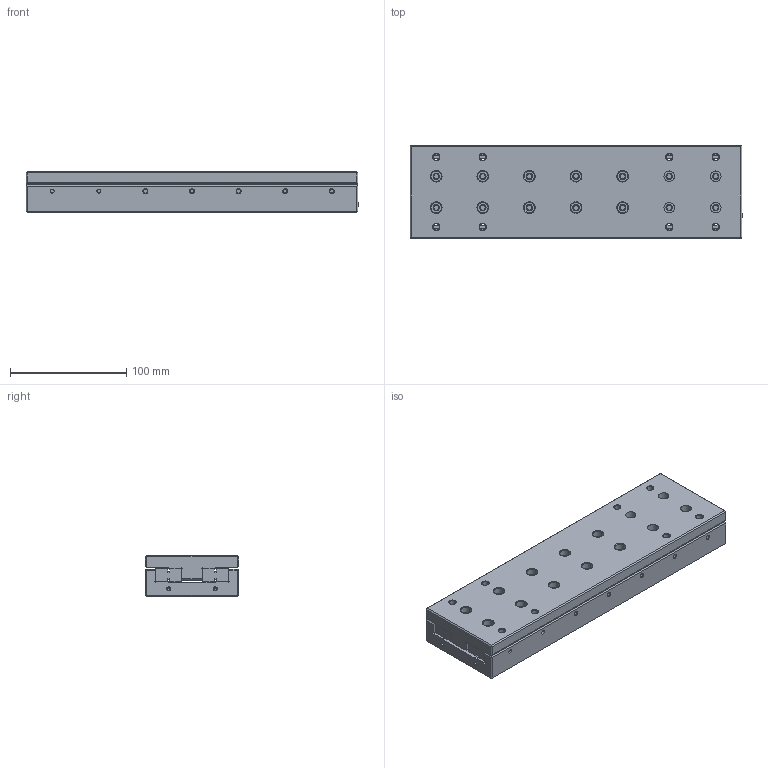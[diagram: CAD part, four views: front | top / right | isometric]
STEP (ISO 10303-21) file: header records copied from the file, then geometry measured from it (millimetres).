
FILE_DESCRIPTION((''),'2;1');
FILE_NAME('CRU4285_ASM','2017-01-24T',('Administrator'),(''),'PRO/ENGINEER BY PARAMETRIC TECHNOLOGY CORPORATION, 2013150','PRO/ENGINEER BY PARAMETRIC TECHNOLOGY CORPORATION, 2013150','');
FILE_SCHEMA(('CONFIG_CONTROL_DESIGN'));
Length unit declared in the file: millimetre
Products named in the file (4): CRU4285-01; CRU4285-GV4280; CRU4285-02; CRU4285_ASM
Assembly tree (4 placements, depth 2):
  CRU4285_ASM
    CRU4285-01
    CRU4285-GV4280  x2
    CRU4285-02
Bounding box: 285 x 80 x 35 mm (x, y, z)
Volume: 724368.1 mm3; surface area: 190506.6 mm2
Topology: 4 solids, 4 shells, 743 faces, 1784 edges, 1097 vertices
Faces by surface type: cylinder 310, cone 254, plane 179
Entity records: 18386 total; most frequent: DIRECTION 3446, CARTESIAN_POINT 3050, ORIENTED_EDGE 2968, EDGE_CURVE 1484, AXIS2_PLACEMENT_3D 1349, VERTEX_POINT 917, EDGE_LOOP 803, VECTOR 748
